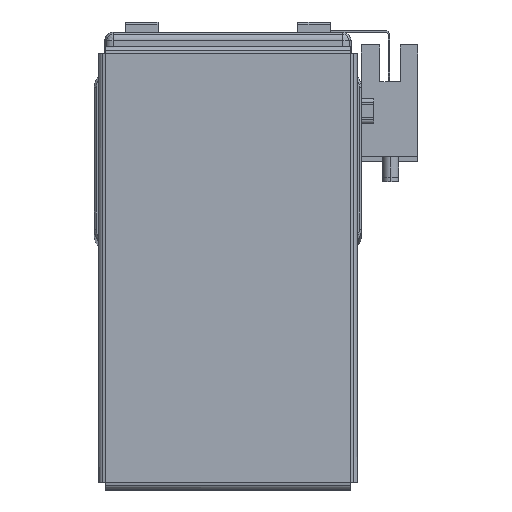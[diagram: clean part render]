
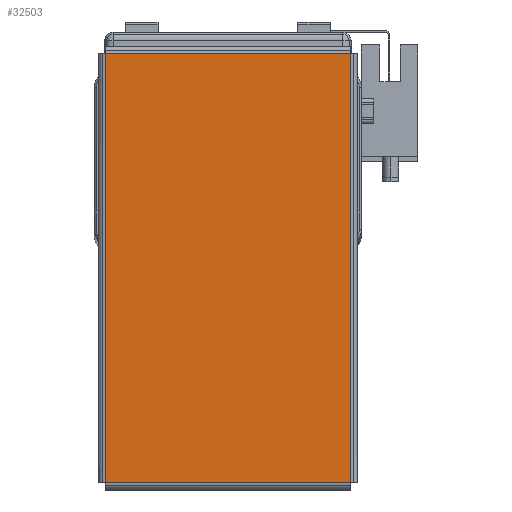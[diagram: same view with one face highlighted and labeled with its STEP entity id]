
A CAD part, top view. The second image highlights one B-rep face of the part: STEP entity #32503.
In plain terms, the highlighted planar face has unit normal (0, 0, 1) as drawn and (0, -1, 0) by its records, which use the part's own axes.
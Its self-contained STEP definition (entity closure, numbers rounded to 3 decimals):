
#1986 = ORIENTED_EDGE ( 'NONE', *, *, #31316, .T. ) ;
#1993 = ORIENTED_EDGE ( 'NONE', *, *, #31373, .T. ) ;
#2048 = ORIENTED_EDGE ( 'NONE', *, *, #31407, .T. ) ;
#2090 = ORIENTED_EDGE ( 'NONE', *, *, #31317, .T. ) ;
#5049 = PLANE ( 'NONE',  #19855 ) ;
#5063 = DIRECTION ( 'NONE',  ( 0., 1., 0. ) ) ;
#5065 = DIRECTION ( 'NONE',  ( 0., 0., 1. ) ) ;
#5073 = CARTESIAN_POINT ( 'NONE',  ( 0., -1., 0. ) ) ;
#5907 = FACE_OUTER_BOUND ( 'NONE', #23185, .T. ) ;
#13082 = CARTESIAN_POINT ( 'NONE',  ( 52.293, -1., 29.863 ) ) ;
#13363 = DIRECTION ( 'NONE',  ( -1., 0., 0. ) ) ;
#13553 = CARTESIAN_POINT ( 'NONE',  ( -52.293, -1., -29.863 ) ) ;
#13564 = DIRECTION ( 'NONE',  ( 0., 0., 1. ) ) ;
#13582 = CARTESIAN_POINT ( 'NONE',  ( 52.263, -1., -29.893 ) ) ;
#13583 = DIRECTION ( 'NONE',  ( 1., 0., 0. ) ) ;
#13674 = LINE ( 'NONE', #13082, #13681 ) ;
#13681 = VECTOR ( 'NONE', #13363, 1000. ) ;
#13743 = VECTOR ( 'NONE', #14974, 1000. ) ;
#13775 = LINE ( 'NONE', #14965, #13743 ) ;
#14965 = CARTESIAN_POINT ( 'NONE',  ( -52.263, -1., 29.893 ) ) ;
#14974 = DIRECTION ( 'NONE',  ( 0., 0., -1. ) ) ;
#17199 = VERTEX_POINT ( 'NONE', #28339 ) ;
#17210 = VERTEX_POINT ( 'NONE', #28325 ) ;
#17222 = VERTEX_POINT ( 'NONE', #28324 ) ;
#17275 = VERTEX_POINT ( 'NONE', #28375 ) ;
#19855 = AXIS2_PLACEMENT_3D ( 'NONE', #5073, #5063, #5065 ) ;
#21816 = VECTOR ( 'NONE', #13564, 1000. ) ;
#21823 = LINE ( 'NONE', #13553, #21831 ) ;
#21831 = VECTOR ( 'NONE', #13583, 1000. ) ;
#21832 = LINE ( 'NONE', #13582, #21816 ) ;
#23185 = EDGE_LOOP ( 'NONE', ( #1993, #2048, #1986, #2090 ) ) ;
#28324 = CARTESIAN_POINT ( 'NONE',  ( 52.263, -1., 29.863 ) ) ;
#28325 = CARTESIAN_POINT ( 'NONE',  ( -52.263, -1., -29.863 ) ) ;
#28339 = CARTESIAN_POINT ( 'NONE',  ( -52.263, -1., 29.863 ) ) ;
#28375 = CARTESIAN_POINT ( 'NONE',  ( 52.263, -1., -29.863 ) ) ;
#31316 = EDGE_CURVE ( 'NONE', #17210, #17275, #21823, .T. ) ;
#31317 = EDGE_CURVE ( 'NONE', #17275, #17222, #21832, .T. ) ;
#31373 = EDGE_CURVE ( 'NONE', #17222, #17199, #13674, .T. ) ;
#31407 = EDGE_CURVE ( 'NONE', #17199, #17210, #13775, .T. ) ;
#32503 = ADVANCED_FACE ( 'NONE', ( #5907 ), #5049, .F. ) ;
